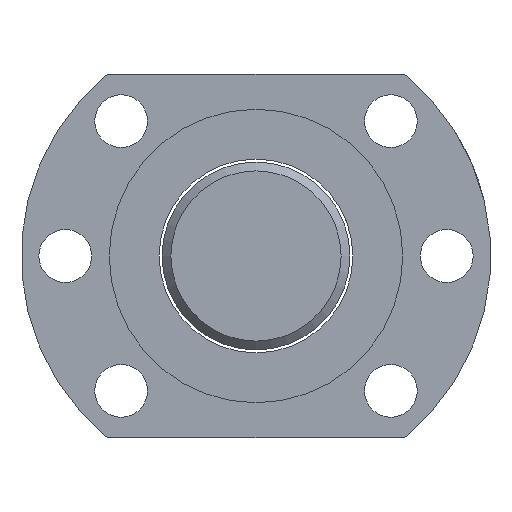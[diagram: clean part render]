
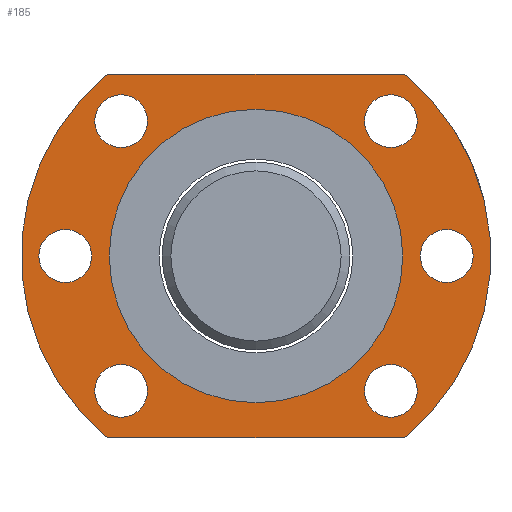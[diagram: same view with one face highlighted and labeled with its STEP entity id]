
A CAD part, left-side view. The second image highlights one B-rep face of the part: STEP entity #185.
In plain terms, the highlighted planar face has unit normal (-1, 0, 0).
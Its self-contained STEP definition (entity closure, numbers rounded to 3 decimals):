
#116=LINE('',#859,#124);
#119=LINE('',#865,#127);
#124=VECTOR('',#672,1.);
#127=VECTOR('',#677,1.);
#138=PLANE('',#581);
#185=ADVANCED_FACE('',(#224,#225,#226,#227,#228,#229,#230,#231),#138,.T.);
#224=FACE_BOUND('',#282,.T.);
#225=FACE_BOUND('',#283,.T.);
#226=FACE_BOUND('',#284,.T.);
#227=FACE_BOUND('',#285,.T.);
#228=FACE_BOUND('',#286,.T.);
#229=FACE_BOUND('',#287,.T.);
#230=FACE_BOUND('',#288,.T.);
#231=FACE_BOUND('',#289,.T.);
#282=EDGE_LOOP('',(#361));
#283=EDGE_LOOP('',(#362));
#284=EDGE_LOOP('',(#363));
#285=EDGE_LOOP('',(#364));
#286=EDGE_LOOP('',(#365));
#287=EDGE_LOOP('',(#366,#367,#368,#369));
#288=EDGE_LOOP('',(#370));
#289=EDGE_LOOP('',(#371));
#361=ORIENTED_EDGE('',*,*,#475,.T.);
#362=ORIENTED_EDGE('',*,*,#479,.T.);
#363=ORIENTED_EDGE('',*,*,#481,.F.);
#364=ORIENTED_EDGE('',*,*,#483,.F.);
#365=ORIENTED_EDGE('',*,*,#485,.F.);
#366=ORIENTED_EDGE('',*,*,#492,.T.);
#367=ORIENTED_EDGE('',*,*,#489,.T.);
#368=ORIENTED_EDGE('',*,*,#463,.T.);
#369=ORIENTED_EDGE('',*,*,#486,.T.);
#370=ORIENTED_EDGE('',*,*,#494,.F.);
#371=ORIENTED_EDGE('',*,*,#477,.T.);
#422=VERTEX_POINT('',#743);
#423=VERTEX_POINT('',#744);
#434=VERTEX_POINT('',#832);
#436=VERTEX_POINT('',#837);
#438=VERTEX_POINT('',#842);
#440=VERTEX_POINT('',#847);
#442=VERTEX_POINT('',#852);
#444=VERTEX_POINT('',#857);
#445=VERTEX_POINT('',#860);
#447=VERTEX_POINT('',#866);
#449=VERTEX_POINT('',#875);
#463=EDGE_CURVE('',#422,#423,#513,.T.);
#475=EDGE_CURVE('',#434,#434,#519,.T.);
#477=EDGE_CURVE('',#436,#436,#521,.T.);
#479=EDGE_CURVE('',#438,#438,#523,.T.);
#481=EDGE_CURVE('',#440,#440,#525,.T.);
#483=EDGE_CURVE('',#442,#442,#527,.T.);
#485=EDGE_CURVE('',#444,#444,#529,.T.);
#486=EDGE_CURVE('',#423,#445,#116,.T.);
#489=EDGE_CURVE('',#447,#422,#119,.T.);
#492=EDGE_CURVE('',#445,#447,#530,.T.);
#494=EDGE_CURVE('',#449,#449,#532,.T.);
#513=CIRCLE('',#550,40.);
#519=CIRCLE('',#558,4.5);
#521=CIRCLE('',#561,4.5);
#523=CIRCLE('',#564,4.5);
#525=CIRCLE('',#567,4.5);
#527=CIRCLE('',#570,4.5);
#529=CIRCLE('',#573,4.5);
#530=CIRCLE('',#577,40.);
#532=CIRCLE('',#580,25.);
#550=AXIS2_PLACEMENT_3D('',#742,#620,#621);
#558=AXIS2_PLACEMENT_3D('',#831,#638,#639);
#561=AXIS2_PLACEMENT_3D('',#836,#644,#645);
#564=AXIS2_PLACEMENT_3D('',#841,#650,#651);
#567=AXIS2_PLACEMENT_3D('',#846,#656,#657);
#570=AXIS2_PLACEMENT_3D('',#851,#662,#663);
#573=AXIS2_PLACEMENT_3D('',#856,#668,#669);
#577=AXIS2_PLACEMENT_3D('',#871,#682,#683);
#580=AXIS2_PLACEMENT_3D('',#874,#688,#689);
#581=AXIS2_PLACEMENT_3D('',#876,#690,#691);
#620=DIRECTION('',(-1.,0.,0.));
#621=DIRECTION('',(0.,0.,-1.));
#638=DIRECTION('',(1.,0.,0.));
#639=DIRECTION('',(0.,0.,1.));
#644=DIRECTION('',(1.,0.,0.));
#645=DIRECTION('',(0.,0.,1.));
#650=DIRECTION('',(1.,0.,0.));
#651=DIRECTION('',(0.,0.,1.));
#656=DIRECTION('',(-1.,0.,0.));
#657=DIRECTION('',(0.,0.,1.));
#662=DIRECTION('',(-1.,0.,0.));
#663=DIRECTION('',(0.,0.,1.));
#668=DIRECTION('',(-1.,0.,0.));
#669=DIRECTION('',(0.,0.,1.));
#672=DIRECTION('',(0.,1.,0.));
#677=DIRECTION('',(0.,-1.,0.));
#682=DIRECTION('',(-1.,0.,0.));
#683=DIRECTION('',(0.,0.,-1.));
#688=DIRECTION('',(-1.,0.,0.));
#689=DIRECTION('',(0.,0.,-1.));
#690=DIRECTION('',(-1.,0.,0.));
#691=DIRECTION('',(0.,0.,-1.));
#742=CARTESIAN_POINT('',(-57.175,-48.743,-3.875));
#743=CARTESIAN_POINT('',(-57.175,-74.021,-34.875));
#744=CARTESIAN_POINT('',(-57.175,-74.021,27.125));
#831=CARTESIAN_POINT('',(-57.175,-71.724,19.106));
#832=CARTESIAN_POINT('',(-57.175,-71.724,23.606));
#836=CARTESIAN_POINT('',(-57.175,-81.243,-3.875));
#837=CARTESIAN_POINT('',(-57.175,-81.243,0.625));
#841=CARTESIAN_POINT('',(-57.175,-71.724,-26.856));
#842=CARTESIAN_POINT('',(-57.175,-71.724,-22.356));
#846=CARTESIAN_POINT('',(-57.175,-25.762,-26.856));
#847=CARTESIAN_POINT('',(-57.175,-25.762,-22.356));
#851=CARTESIAN_POINT('',(-57.175,-25.762,19.106));
#852=CARTESIAN_POINT('',(-57.175,-25.762,23.606));
#856=CARTESIAN_POINT('',(-57.175,-16.243,-3.875));
#857=CARTESIAN_POINT('',(-57.175,-16.243,0.625));
#859=CARTESIAN_POINT('',(-57.175,-74.021,27.125));
#860=CARTESIAN_POINT('',(-57.175,-23.464,27.125));
#865=CARTESIAN_POINT('',(-57.175,-23.464,-34.875));
#866=CARTESIAN_POINT('',(-57.175,-23.464,-34.875));
#871=CARTESIAN_POINT('',(-57.175,-48.743,-3.875));
#874=CARTESIAN_POINT('',(-57.175,-48.743,-3.875));
#875=CARTESIAN_POINT('',(-57.175,-48.743,-28.875));
#876=CARTESIAN_POINT('',(-57.175,-48.743,-3.875));
